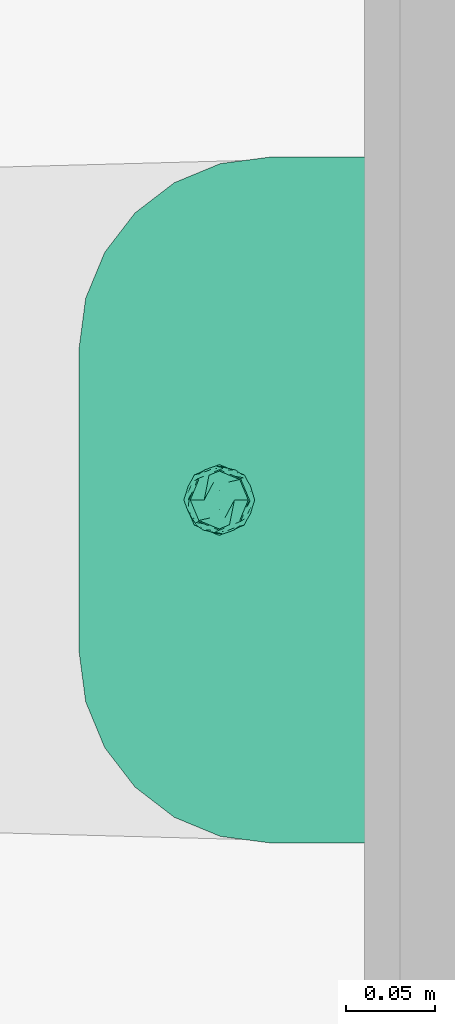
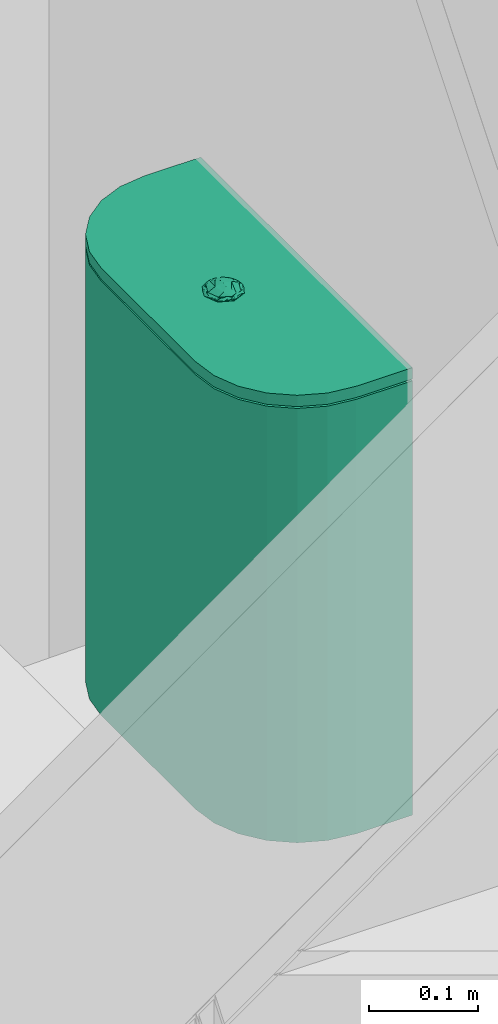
# One storey, part 66 of 75: 1 flow terminal.
"""IFC2X3 building model written with IfcOpenShell, lengths in metres."""

from ifc_helpers import new_model, entity, si_unit, converted_unit, derived_unit, direction, frame, origin, place, context, subcontext, project, spatial, faceted_brep, source, transform, mapped, material, material_list, type_object, type_shapes, element, save


model = new_model("IFC2X3")

# Units and contexts
model_context = context("Model", 3, precision=1e-05, world=origin(), true_north=direction((6.12303176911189e-17, 1.0)))
body_context = subcontext(model_context, "Body", "Model", "MODEL_VIEW")
ifc_project = project(units=[si_unit("LENGTHUNIT", "METRE"), si_unit("AREAUNIT", "SQUARE_METRE"), si_unit("VOLUMEUNIT", "CUBIC_METRE"), converted_unit("PLANEANGLEUNIT", "DEGREE", entity("IfcRatioMeasure", 0.0174532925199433), si_unit("PLANEANGLEUNIT", "RADIAN"), dimensions=[0, 0, 0, 0, 0, 0, 0]), si_unit("MASSUNIT", "GRAM", prefix="KILO"), derived_unit("MASSDENSITYUNIT", [(si_unit("MASSUNIT", "GRAM", prefix="KILO"), 1), (si_unit("LENGTHUNIT", "METRE"), -3)]), derived_unit("MOMENTOFINERTIAUNIT", [(si_unit("LENGTHUNIT", "METRE"), 4)]), si_unit("TIMEUNIT", "SECOND"), si_unit("FREQUENCYUNIT", "HERTZ"), si_unit("THERMODYNAMICTEMPERATUREUNIT", "DEGREE_CELSIUS"), derived_unit("THERMALTRANSMITTANCEUNIT", [(si_unit("MASSUNIT", "GRAM", prefix="KILO"), 1), (si_unit("THERMODYNAMICTEMPERATUREUNIT", "KELVIN"), -1), (si_unit("TIMEUNIT", "SECOND"), -3)]), derived_unit("VOLUMETRICFLOWRATEUNIT", [(si_unit("LENGTHUNIT", "METRE"), 3), (si_unit("TIMEUNIT", "SECOND"), -1)]), si_unit("ELECTRICCURRENTUNIT", "AMPERE"), si_unit("ELECTRICVOLTAGEUNIT", "VOLT"), si_unit("POWERUNIT", "WATT"), si_unit("FORCEUNIT", "NEWTON", prefix="KILO"), si_unit("ILLUMINANCEUNIT", "LUX"), si_unit("LUMINOUSFLUXUNIT", "LUMEN"), si_unit("LUMINOUSINTENSITYUNIT", "CANDELA"), derived_unit("USERDEFINED", [(si_unit("MASSUNIT", "GRAM", prefix="KILO"), -1), (si_unit("LENGTHUNIT", "METRE"), -2), (si_unit("TIMEUNIT", "SECOND"), 3), (si_unit("LUMINOUSFLUXUNIT", "LUMEN"), 1)]), derived_unit("LINEARVELOCITYUNIT", [(si_unit("LENGTHUNIT", "METRE"), 1), (si_unit("TIMEUNIT", "SECOND"), -1)]), si_unit("PRESSUREUNIT", "PASCAL"), derived_unit("USERDEFINED", [(si_unit("LENGTHUNIT", "METRE"), -2), (si_unit("MASSUNIT", "GRAM", prefix="KILO"), 1), (si_unit("TIMEUNIT", "SECOND"), -2)]), derived_unit("LINEARFORCEUNIT", [(si_unit("MASSUNIT", "GRAM", prefix="KILO"), 1), (si_unit("LENGTHUNIT", "METRE"), 1), (si_unit("TIMEUNIT", "SECOND"), -2), (si_unit("LENGTHUNIT", "METRE"), -1)]), derived_unit("PLANARFORCEUNIT", [(si_unit("MASSUNIT", "GRAM", prefix="KILO"), 1), (si_unit("LENGTHUNIT", "METRE"), 1), (si_unit("TIMEUNIT", "SECOND"), -2), (si_unit("LENGTHUNIT", "METRE"), -2)])], contexts=[model_context])

# Site, building, storey
site_placement = place(None, origin())
site = spatial("IfcSite", under=ifc_project, at=site_placement, Name="Superficie", CompositionType="ELEMENT")
building_placement = place(site_placement, origin())
building = spatial("IfcBuilding", under=site, at=building_placement, Name="Telegestiones", CompositionType="ELEMENT")
storey_placement = place(building_placement, origin())
storey = spatial("IfcBuildingStorey", under=building, at=storey_placement, Name="Nivel 0_NPT", CompositionType="ELEMENT", Elevation=0.0)

# Flow terminal
ifc_material_1 = material(Name="Metal - Ferrum - Cromado")
ifc_material_2 = material(Name="Ceramica - Ferrum - Blanco Satinado")
ifc_material_list_1 = material_list([ifc_material_1, ifc_material_2])
ifc_material_list_2 = material_list([ifc_material_2, ifc_material_1])
distribution_element_type = type_object("IfcDistributionElementType", Name="Inodoro-Ferrum-Marina-Deposito:Deposito", material=ifc_material_list_2)
shared_shape = source(origin(), body_context, "Body", "Brep", [
    faceted_brep([(0.0, -0.0879347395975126, 0.501461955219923), (0.0, -0.0708831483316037, 0.501461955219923), (-0.00479660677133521, -0.0728699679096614, 0.501461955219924), (-0.00842695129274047, -0.0743737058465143, 0.501461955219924), (-0.0120572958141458, -0.0758774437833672, 0.501461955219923), (-0.0133058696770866, -0.0788917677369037, 0.501461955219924), (-0.0145544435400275, -0.0819060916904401, 0.501461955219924), (-0.0158030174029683, -0.0849204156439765, 0.501461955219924), (-0.0170515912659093, -0.087934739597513, 0.501461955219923), (-0.0158030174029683, -0.0909490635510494, 0.501461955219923), (-0.0145544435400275, -0.0939633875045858, 0.501461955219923), (-0.0133058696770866, -0.0969777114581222, 0.501461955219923), (-0.0120572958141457, -0.0999920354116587, 0.501461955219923), (-0.00842695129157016, -0.101495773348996, 0.501461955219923), (-0.00479660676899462, -0.102999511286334, 0.501461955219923), (0.0, -0.104986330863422, 0.501461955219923), (0.0047966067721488, -0.102999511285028, 0.501461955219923), (0.00479660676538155, -0.0728699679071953, 0.501461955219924), (0.00842695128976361, -0.0743737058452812, 0.501461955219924), (0.0120572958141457, -0.0758774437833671, 0.501461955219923), (0.0133058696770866, -0.0788917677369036, 0.501461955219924), (0.0145544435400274, -0.08190609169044, 0.501461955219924), (0.0158030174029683, -0.0849204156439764, 0.501461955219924), (0.0170515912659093, -0.0879347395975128, 0.501461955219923), (0.00842695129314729, -0.101495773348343, 0.501461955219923), (0.0120572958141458, -0.0999920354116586, 0.501461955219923), (0.0133058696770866, -0.0969777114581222, 0.501461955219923), (0.0145544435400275, -0.0939633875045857, 0.501461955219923), (0.0158030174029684, -0.0909490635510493, 0.501461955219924), (0.0, -0.0879347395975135, 0.499004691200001), (-0.0141421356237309, -0.0737926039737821, 0.499004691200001), (-0.00988406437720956, -0.0720288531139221, 0.499004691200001), (-0.00562599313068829, -0.070265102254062, 0.499004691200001), (0.0, -0.067934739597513, 0.499004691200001), (0.00562599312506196, -0.0702651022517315, 0.499004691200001), (-0.0156066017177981, -0.0773281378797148, 0.499004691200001), (-0.0170710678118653, -0.0808636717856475, 0.499004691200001), (-0.0185355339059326, -0.0843992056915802, 0.499004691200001), (-0.0199999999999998, -0.0879347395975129, 0.499004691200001), (-0.0185355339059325, -0.0914702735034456, 0.499004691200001), (-0.0170710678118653, -0.0950058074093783, 0.499004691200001), (-0.015606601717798, -0.098541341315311, 0.499004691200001), (-0.0141421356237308, -0.102076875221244, 0.499004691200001), (-0.00988406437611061, -0.103840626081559, 0.499004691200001), (-0.00562599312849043, -0.105604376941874, 0.499004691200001), (0.0, -0.107934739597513, 0.499004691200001), (0.00988406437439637, -0.0720288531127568, 0.499004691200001), (0.0141421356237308, -0.073792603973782, 0.499004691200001), (0.015606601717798, -0.0773281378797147, 0.499004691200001), (0.0170710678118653, -0.0808636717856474, 0.499004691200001), (0.0185355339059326, -0.0843992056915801, 0.499004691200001), (0.0199999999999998, -0.0879347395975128, 0.499004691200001), (0.0185355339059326, -0.0914702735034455, 0.499004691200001), (0.00562599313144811, -0.105604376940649, 0.499004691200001), (0.0098840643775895, -0.103840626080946, 0.499004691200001), (0.0141421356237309, -0.102076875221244, 0.499004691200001), (0.0170710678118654, -0.0950058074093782, 0.499004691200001), (0.0156066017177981, -0.0985413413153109, 0.499004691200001), (-0.0106825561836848, -0.102196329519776, 0.500884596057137), (-0.013204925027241, -0.0999578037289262, 0.500853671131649), (-0.0124759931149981, -0.101684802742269, 0.500282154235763), (-0.0157937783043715, -0.0963766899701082, 0.500814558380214), (-0.0148252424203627, -0.0991118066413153, 0.50028215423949), (-0.00401935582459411, -0.0691551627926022, 0.499734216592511), (-0.00968739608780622, -0.10377358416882, 0.500282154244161), (-0.00437721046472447, -0.10555508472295, 0.500618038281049), (-0.00752313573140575, -0.104092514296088, 0.5008810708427), (0.0, -0.105664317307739, 0.500933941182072), (-0.0172182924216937, -0.095648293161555, 0.500028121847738), (0.0, -0.106501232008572, 0.500282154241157), (-0.017062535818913, -0.0930831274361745, 0.500881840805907), (-0.0177493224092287, -0.0896123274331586, 0.500877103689), (-0.0153450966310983, -0.0776814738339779, 0.500374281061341), (-0.0170166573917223, -0.0807405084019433, 0.500358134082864), (-0.00496458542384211, -0.0703027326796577, 0.500487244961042), (-0.00805501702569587, -0.0704028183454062, 0.499655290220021), (-0.00968739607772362, -0.0720958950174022, 0.500282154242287), (-0.00372687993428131, -0.106716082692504, 0.49978476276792), (0.0, -0.0702051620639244, 0.500933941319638), (0.0, -0.0693682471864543, 0.500282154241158), (-0.0111886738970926, -0.072216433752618, 0.499655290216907), (-0.0119381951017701, -0.103091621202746, 0.499655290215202), (-0.00762284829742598, -0.105588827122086, 0.499712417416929), (-0.0181504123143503, -0.0840261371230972, 0.500282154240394), (-0.018565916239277, -0.0877884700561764, 0.50028215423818), (-0.0177055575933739, -0.0861570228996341, 0.500903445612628), (-0.0182097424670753, -0.091556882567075, 0.500282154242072), (-0.0192009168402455, -0.089825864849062, 0.499655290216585), (-0.0170346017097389, -0.082767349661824, 0.500898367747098), (-0.0126874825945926, -0.0746691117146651, 0.50045576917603), (-0.0169081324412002, -0.0787166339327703, 0.499687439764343), (-0.0145243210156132, -0.0753984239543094, 0.499750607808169), (0.0106825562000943, -0.0736731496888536, 0.500884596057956), (0.0132049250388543, -0.075911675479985, 0.500853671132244), (0.0124759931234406, -0.0741846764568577, 0.500282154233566), (0.0157937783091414, -0.0794927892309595, 0.500814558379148), (0.0148252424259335, -0.0767576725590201, 0.500282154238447), (0.00509887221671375, -0.106043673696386, 0.50007430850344), (0.00968739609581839, -0.0720958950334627, 0.500282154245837), (0.00437721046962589, -0.0703143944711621, 0.500618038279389), (0.00752313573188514, -0.0717769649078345, 0.500881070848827), (0.0172182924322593, -0.0802211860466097, 0.50002812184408), (0.00968739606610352, -0.103773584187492, 0.500282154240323), (0.012687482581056, -0.101200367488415, 0.50045576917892), (0.0103332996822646, -0.102451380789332, 0.500884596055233), (0.0170625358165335, -0.0827863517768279, 0.500881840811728), (0.0177493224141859, -0.0862571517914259, 0.500877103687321), (0.0170166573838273, -0.0951289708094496, 0.500358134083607), (0.018150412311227, -0.0918433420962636, 0.500282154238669), (0.0170346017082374, -0.0931021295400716, 0.500898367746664), (0.014524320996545, -0.100471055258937, 0.4997506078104), (0.00743921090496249, -0.104126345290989, 0.500884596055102), (0.00372687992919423, -0.0691533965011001, 0.499784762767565), (0.0037488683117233, -0.105450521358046, 0.500811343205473), (0.0119381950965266, -0.0727778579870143, 0.499655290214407), (0.00762284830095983, -0.0702806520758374, 0.499712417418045), (0.0185659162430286, -0.0880810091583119, 0.500282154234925), (0.0177055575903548, -0.0897124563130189, 0.500903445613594), (0.0182097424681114, -0.0843125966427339, 0.500282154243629), (0.0192009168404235, -0.0860436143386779, 0.499655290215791), (0.0153450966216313, -0.0981880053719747, 0.500374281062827), (0.0169081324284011, -0.0971528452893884, 0.499687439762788)], [[[0, 1, 2]], [[0, 2, 3]], [[0, 3, 4]], [[0, 4, 5]], [[0, 5, 6]], [[0, 6, 7]], [[0, 7, 8]], [[0, 8, 9]], [[0, 9, 10]], [[0, 10, 11]], [[0, 11, 12]], [[0, 12, 13]], [[0, 13, 14]], [[0, 14, 15]], [[0, 15, 16]], [[0, 17, 1]], [[0, 18, 17]], [[0, 19, 18]], [[0, 20, 19]], [[0, 21, 20]], [[0, 22, 21]], [[0, 23, 22]], [[0, 16, 24]], [[0, 24, 25]], [[0, 25, 26]], [[0, 26, 27]], [[0, 27, 28]], [[0, 28, 23]], [[29, 30, 31]], [[29, 31, 32]], [[29, 32, 33]], [[29, 33, 34]], [[29, 35, 30]], [[29, 36, 35]], [[29, 37, 36]], [[29, 38, 37]], [[29, 39, 38]], [[29, 40, 39]], [[29, 41, 40]], [[29, 42, 41]], [[29, 43, 42]], [[29, 44, 43]], [[29, 45, 44]], [[29, 34, 46]], [[29, 46, 47]], [[29, 47, 48]], [[29, 48, 49]], [[29, 49, 50]], [[29, 50, 51]], [[29, 51, 52]], [[29, 53, 45]], [[29, 54, 53]], [[29, 55, 54]], [[29, 52, 56]], [[29, 56, 57]], [[29, 57, 55]], [[58, 59, 60]], [[59, 11, 61]], [[61, 62, 59]], [[33, 32, 63]], [[64, 65, 66]], [[15, 14, 67]], [[62, 68, 41]], [[69, 67, 65]], [[70, 9, 71]], [[68, 62, 61]], [[6, 72, 73]], [[74, 75, 76]], [[32, 75, 63]], [[31, 75, 32]], [[69, 65, 77]], [[74, 1, 78, 79]], [[74, 76, 3]], [[80, 76, 75]], [[81, 82, 64]], [[83, 37, 84]], [[71, 85, 84]], [[45, 69, 77]], [[68, 39, 40, 41]], [[68, 86, 87]], [[85, 7, 88]], [[88, 73, 83]], [[31, 80, 75]], [[89, 72, 5]], [[37, 38, 87]], [[36, 83, 90]], [[65, 67, 14]], [[13, 12, 58]], [[77, 82, 44]], [[82, 65, 64]], [[45, 77, 44]], [[65, 82, 77]], [[82, 81, 43]], [[43, 81, 42]], [[43, 44, 82]], [[60, 81, 64]], [[58, 64, 66]], [[62, 81, 60]], [[66, 14, 13]], [[60, 64, 58]], [[59, 58, 12]], [[14, 66, 65]], [[13, 58, 66]], [[59, 12, 11]], [[60, 59, 62]], [[11, 10, 61]], [[86, 70, 71]], [[61, 70, 68]], [[87, 38, 39]], [[42, 81, 62]], [[68, 87, 39]], [[42, 62, 41]], [[84, 87, 86]], [[71, 84, 86]], [[83, 36, 37]], [[73, 88, 6]], [[6, 88, 7]], [[85, 83, 84]], [[68, 70, 86]], [[8, 7, 85]], [[61, 10, 70]], [[9, 8, 71]], [[85, 88, 83]], [[8, 85, 71]], [[70, 10, 9]], [[73, 72, 90]], [[91, 90, 72]], [[91, 35, 90]], [[89, 91, 72]], [[76, 80, 89]], [[72, 6, 5]], [[87, 84, 37]], [[35, 91, 30]], [[91, 80, 30]], [[35, 36, 90]], [[75, 74, 63]], [[89, 3, 76]], [[1, 74, 3, 2]], [[74, 79, 63]], [[33, 63, 79]], [[30, 80, 31]], [[89, 80, 91]], [[3, 89, 4]], [[83, 73, 90]], [[4, 89, 5]], [[92, 93, 94]], [[93, 20, 95]], [[95, 96, 93]], [[45, 53, 54, 97]], [[98, 99, 100]], [[1, 17, 78]], [[96, 101, 48]], [[102, 103, 104]], [[105, 22, 106]], [[101, 96, 95]], [[107, 108, 109]], [[102, 54, 110]], [[104, 111, 102]], [[102, 111, 97]], [[79, 99, 112]], [[113, 15, 67, 69]], [[25, 24, 104]], [[79, 78, 99]], [[114, 115, 98]], [[116, 108, 52]], [[106, 117, 116]], [[33, 79, 112]], [[101, 50, 49, 48]], [[101, 118, 119]], [[117, 28, 109]], [[120, 27, 26]], [[110, 103, 102]], [[27, 120, 107]], [[52, 51, 119]], [[56, 108, 121]], [[99, 78, 17]], [[18, 19, 92]], [[112, 115, 34]], [[115, 99, 98]], [[33, 112, 34]], [[99, 115, 112]], [[115, 114, 46]], [[46, 114, 47]], [[46, 34, 115]], [[94, 114, 98]], [[92, 98, 100]], [[96, 114, 94]], [[100, 17, 18]], [[94, 98, 92]], [[93, 92, 19]], [[17, 100, 99]], [[18, 92, 100]], [[93, 19, 20]], [[94, 93, 96]], [[20, 21, 95]], [[118, 105, 106]], [[95, 105, 101]], [[119, 51, 50]], [[47, 114, 96]], [[101, 119, 50]], [[47, 96, 48]], [[116, 119, 118]], [[106, 116, 118]], [[108, 56, 52]], [[107, 109, 27]], [[27, 109, 28]], [[117, 108, 116]], [[101, 105, 118]], [[23, 28, 117]], [[95, 21, 105]], [[22, 23, 106]], [[117, 109, 108]], [[23, 117, 106]], [[105, 21, 22]], [[103, 26, 25]], [[107, 120, 121]], [[110, 121, 120]], [[110, 57, 121]], [[103, 110, 120]], [[97, 54, 102]], [[103, 120, 26]], [[24, 111, 104]], [[97, 111, 113]], [[111, 24, 16]], [[16, 113, 111]], [[45, 97, 69]], [[119, 116, 52]], [[15, 113, 16]], [[69, 97, 113]], [[57, 110, 55]], [[57, 56, 121]], [[25, 104, 103]], [[55, 110, 54]], [[108, 107, 121]]]),
    faceted_brep([(0.0, -0.0879347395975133, 0.501961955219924), (-0.0115552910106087, -0.0763794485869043, 0.501961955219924), (-0.00652729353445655, -0.0742967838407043, 0.501961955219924), (-0.0032636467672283, -0.0729449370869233, 0.501961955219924), (0.0, -0.0715930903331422, 0.501961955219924), (0.00652729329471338, -0.0742967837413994, 0.501961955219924), (-0.0139484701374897, -0.0821570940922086, 0.501961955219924), (-0.0163416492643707, -0.087934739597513, 0.501961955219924), (-0.0139484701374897, -0.0937123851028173, 0.501961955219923), (-0.0115552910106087, -0.0994900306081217, 0.501961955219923), (-0.00652729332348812, -0.101572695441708, 0.501961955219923), (0.0, -0.104276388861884, 0.501961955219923), (0.0115552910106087, -0.0763794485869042, 0.501961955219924), (0.0139484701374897, -0.0821570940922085, 0.501961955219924), (0.0163416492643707, -0.0879347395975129, 0.501961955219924), (0.0139484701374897, -0.0937123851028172, 0.501961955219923), (0.00326364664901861, -0.102924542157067, 0.501961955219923), (0.00652729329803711, -0.10157269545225, 0.501961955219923), (0.0115552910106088, -0.0994900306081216, 0.501961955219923), (0.0, -0.0964857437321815, 0.505715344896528), (0.0, -0.0922102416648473, 0.506360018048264), (-0.0100644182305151, -0.0911023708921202, 0.505017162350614), (-0.00557978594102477, -0.0879347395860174, 0.506462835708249), (-0.0101494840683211, -0.0826250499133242, 0.504646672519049), (0.0, -0.102536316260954, 0.502800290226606), (0.0, -0.100796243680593, 0.503638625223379), (0.0, -0.0986409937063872, 0.504676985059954), (0.0, -0.0836592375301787, 0.506360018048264), (0.0, -0.0793837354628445, 0.505715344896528), (0.0, -0.0772284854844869, 0.504676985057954), (0.0, -0.0750732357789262, 0.503638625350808), (0.0, -0.0733331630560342, 0.502800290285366), (0.0, -0.087934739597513, 0.5070046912), (0.01006441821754, -0.0847671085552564, 0.50501716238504), (0.00557978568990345, -0.0879347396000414, 0.506462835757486), (0.0101494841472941, -0.0932444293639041, 0.504646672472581)], [[[0, 1, 2]], [[0, 2, 3]], [[0, 3, 4]], [[0, 4, 5]], [[0, 6, 1]], [[0, 7, 6]], [[0, 8, 7]], [[0, 9, 8]], [[0, 10, 9]], [[0, 11, 10]], [[0, 5, 12]], [[0, 12, 13]], [[0, 13, 14]], [[0, 14, 15]], [[0, 16, 11]], [[0, 17, 16]], [[0, 18, 17]], [[0, 15, 18]], [[19, 20, 21]], [[19, 8, 9]], [[22, 23, 21]], [[10, 11, 24, 25, 26, 19, 9]], [[21, 8, 19]], [[27, 28, 23]], [[23, 1, 6, 7]], [[1, 23, 28]], [[23, 7, 21]], [[3, 2, 1, 28, 29, 30, 31, 4]], [[27, 22, 32]], [[7, 8, 21]], [[20, 32, 22]], [[23, 22, 27]], [[21, 20, 22]], [[28, 27, 33]], [[28, 13, 12]], [[34, 35, 33]], [[5, 4, 31, 30, 29, 28, 12]], [[33, 13, 28]], [[20, 19, 35]], [[35, 18, 15, 14]], [[18, 35, 19]], [[35, 14, 33]], [[24, 11, 16, 17, 18, 19, 26, 25]], [[20, 34, 32]], [[14, 13, 33]], [[27, 32, 34]], [[35, 34, 20]], [[33, 27, 34]]]),
    faceted_brep([(0.1935, -0.059548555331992, 0.4863750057), (0.189838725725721, -0.0873586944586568, 0.4863750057), (0.179104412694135, -0.113273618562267, 0.4863750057), (0.162028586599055, -0.135527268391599, 0.4863750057), (0.139774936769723, -0.152603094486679, 0.486375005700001), (0.113860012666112, -0.163337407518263, 0.486375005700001), (0.0860498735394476, -0.166998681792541, 0.486375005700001), (-0.0860498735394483, -0.166998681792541, 0.486375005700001), (-0.113860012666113, -0.163337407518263, 0.486375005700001), (-0.139774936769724, -0.152603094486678, 0.486375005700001), (-0.162028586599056, -0.135527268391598, 0.4863750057), (-0.179104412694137, -0.113273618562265, 0.4863750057), (-0.189838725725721, -0.0873586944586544, 0.4863750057), (-0.1935, -0.0595485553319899, 0.4863750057), (-0.1935, 0.0, 0.4863750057), (0.1935, 0.0, 0.4863750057), (-0.1935, -0.0595485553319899, 0.499004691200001), (-0.189838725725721, -0.0873586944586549, 0.499004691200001), (-0.179104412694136, -0.113273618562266, 0.499004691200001), (-0.162028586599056, -0.135527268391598, 0.499004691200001), (-0.139774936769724, -0.152603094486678, 0.499004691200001), (-0.113860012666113, -0.163337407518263, 0.499004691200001), (-0.0860498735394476, -0.166998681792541, 0.499004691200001), (0.0860498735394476, -0.166998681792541, 0.499004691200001), (0.113860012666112, -0.163337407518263, 0.499004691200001), (0.139774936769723, -0.152603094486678, 0.499004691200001), (0.162028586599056, -0.135527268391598, 0.499004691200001), (0.179104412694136, -0.113273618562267, 0.499004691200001), (0.189838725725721, -0.0873586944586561, 0.499004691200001), (0.1935, -0.0595485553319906, 0.499004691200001), (0.1935, 0.0, 0.499004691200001), (-0.1935, 0.0, 0.499004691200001)], [[[0, 1, 2, 3, 4, 5, 6, 7, 8, 9, 10, 11, 12, 13, 14, 15]], [[16, 17, 18, 19, 20, 21, 22, 23, 24, 25, 26, 27, 28, 29, 30, 31]], [[16, 31, 14, 13]], [[16, 13, 12, 17]], [[17, 12, 11, 18]], [[18, 11, 10, 19]], [[8, 7, 22, 21]], [[9, 8, 21, 20]], [[19, 10, 9, 20]], [[23, 22, 7, 6]], [[23, 6, 5, 24]], [[24, 5, 4, 25]], [[25, 4, 3, 26]], [[27, 2, 1, 28]], [[28, 1, 0, 29]], [[26, 3, 2, 27]], [[30, 29, 0, 15]], [[31, 30, 15, 14]]]),
    faceted_brep([(-0.1935, -0.05954855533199, 0.484375), (-0.1935, 0.0, 0.484375), (-0.1935, 0.0, 0.0), (-0.1935, -0.0595485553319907, 0.0), (-0.189838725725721, -0.0873586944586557, 0.0), (-0.179104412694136, -0.113273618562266, 0.0), (-0.179104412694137, -0.113273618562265, 0.484375), (-0.189838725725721, -0.0873586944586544, 0.484375), (-0.162028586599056, -0.135527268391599, 0.0), (-0.162028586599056, -0.135527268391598, 0.484375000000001), (-0.113860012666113, -0.163337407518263, 0.484375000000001), (-0.139774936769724, -0.152603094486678, 0.484375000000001), (-0.139774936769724, -0.152603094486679, 0.0), (-0.113860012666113, -0.163337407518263, 0.0), (-0.0860498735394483, -0.166998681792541, 0.484375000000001), (-0.0860498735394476, -0.166998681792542, 0.0), (0.0860498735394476, -0.166998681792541, 0.484375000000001), (0.0860498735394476, -0.166998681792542, 0.0), (0.113860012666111, -0.163337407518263, 0.484375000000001), (0.113860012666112, -0.163337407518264, 0.0), (0.139774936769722, -0.152603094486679, 0.484375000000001), (0.139774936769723, -0.152603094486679, 0.0), (0.162028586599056, -0.135527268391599, 0.0), (0.162028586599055, -0.1355272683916, 0.484375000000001), (0.189838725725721, -0.0873586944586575, 0.484375), (0.179104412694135, -0.113273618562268, 0.484375), (0.179104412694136, -0.113273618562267, 0.0), (0.189838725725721, -0.0873586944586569, 0.0), (0.1935, -0.0595485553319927, 0.484375), (0.1935, -0.0595485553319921, 0.0), (0.1935, 0.0, 0.484375), (0.1935, 0.0, 0.0)], [[[0, 1, 2, 3]], [[4, 5, 6, 7]], [[3, 4, 7, 0]], [[5, 8, 9, 6]], [[10, 11, 12, 13]], [[14, 10, 13, 15]], [[8, 12, 11, 9]], [[16, 14, 15, 17]], [[18, 16, 17, 19]], [[20, 18, 19, 21]], [[21, 22, 23, 20]], [[24, 25, 26, 27]], [[28, 24, 27, 29]], [[22, 26, 25, 23]], [[30, 28, 29, 31]], [[1, 30, 31, 2]], [[20, 23, 25, 24, 28, 30, 1, 0, 7, 6, 9, 11, 10, 14, 16, 18]], [[13, 12, 8, 5, 4, 3, 2, 31, 29, 27, 26, 22, 21, 19, 17, 15]]]),
])
type_shapes(distribution_element_type, [shared_shape])
flow_terminal_placement = place(storey_placement, frame((5.8502897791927, 7.07360722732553, 0.437884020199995), z_axis=(0.0, 0.0, 1.0), x_axis=(0.0, -1.0, 0.0)))
element("IfcFlowTerminal", 1, at=flow_terminal_placement, inside=storey, type_object=distribution_element_type, material=ifc_material_list_1, Name="Inodoro-Ferrum-Marina-Deposito:Deposito", ObjectType="Inodoro-Ferrum-Marina-Deposito:Deposito", context=body_context, shape_type="MappedRepresentation", body=[
    mapped(shared_shape, transform((0.0, 0.0, 0.0), scale=1.0)),
])

save(model, "model.ifc")
